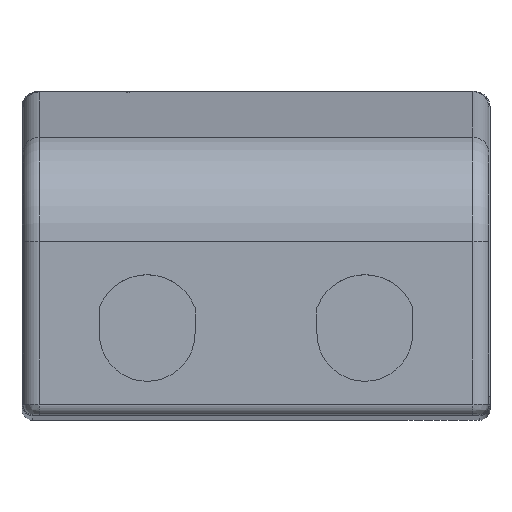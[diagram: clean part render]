
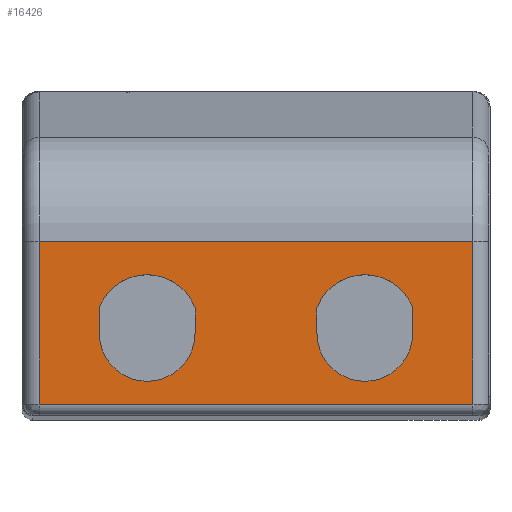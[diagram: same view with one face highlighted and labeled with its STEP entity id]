
A CAD part, top view. The second image highlights one B-rep face of the part: STEP entity #16426.
In plain terms, the highlighted planar face has unit normal (0, 0, 1).
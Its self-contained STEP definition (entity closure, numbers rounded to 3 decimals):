
#14873=CARTESIAN_POINT('',(-10.,8.2,30.));
#14874=DIRECTION('',(0.,0.,1.));
#14875=DIRECTION('',(0.936,0.352,0.));
#14876=AXIS2_PLACEMENT_3D('',#14873,#14874,#14875);
#14878=DIRECTION('',(0.,-1.,0.));
#14879=VECTOR('',#14878,2.352);
#14880=CARTESIAN_POINT('',(-14.4,9.852,30.));
#14881=LINE('',#14880,#14879);
#14882=CARTESIAN_POINT('',(-10.,7.5,30.));
#14883=DIRECTION('',(0.,0.,1.));
#14884=DIRECTION('',(-1.,0.,0.));
#14885=AXIS2_PLACEMENT_3D('',#14882,#14883,#14884);
#14887=DIRECTION('',(0.,1.,0.));
#14888=VECTOR('',#14887,2.352);
#14889=CARTESIAN_POINT('',(-5.6,7.5,30.));
#14890=LINE('',#14889,#14888);
#14891=CARTESIAN_POINT('',(10.,8.2,30.));
#14892=DIRECTION('',(0.,0.,1.));
#14893=DIRECTION('',(0.936,0.352,0.));
#14894=AXIS2_PLACEMENT_3D('',#14891,#14892,#14893);
#14896=DIRECTION('',(0.,-1.,0.));
#14897=VECTOR('',#14896,2.352);
#14898=CARTESIAN_POINT('',(5.6,9.852,30.));
#14899=LINE('',#14898,#14897);
#14900=CARTESIAN_POINT('',(10.,7.5,30.));
#14901=DIRECTION('',(0.,0.,1.));
#14902=DIRECTION('',(-1.,0.,0.));
#14903=AXIS2_PLACEMENT_3D('',#14900,#14901,#14902);
#14905=DIRECTION('',(0.,1.,0.));
#14906=VECTOR('',#14905,2.352);
#14907=CARTESIAN_POINT('',(14.4,7.5,30.));
#14908=LINE('',#14907,#14906);
#14909=DIRECTION('',(1.,0.,0.));
#14910=VECTOR('',#14909,39.8);
#14911=CARTESIAN_POINT('',(-19.9,1.,30.));
#14912=LINE('',#14911,#14910);
#14913=DIRECTION('',(0.,1.,0.));
#14914=VECTOR('',#14913,14.957);
#14915=CARTESIAN_POINT('',(-19.9,1.,30.));
#14916=LINE('',#14915,#14914);
#14917=DIRECTION('',(1.,0.,0.));
#14918=VECTOR('',#14917,39.8);
#14919=CARTESIAN_POINT('',(-19.9,15.957,30.));
#14920=LINE('',#14919,#14918);
#14921=DIRECTION('',(0.,-1.,0.));
#14922=VECTOR('',#14921,14.957);
#14923=CARTESIAN_POINT('',(19.9,15.957,30.));
#14924=LINE('',#14923,#14922);
#15722=CARTESIAN_POINT('',(-5.6,9.852,30.));
#15723=CARTESIAN_POINT('',(-14.4,9.852,30.));
#15724=VERTEX_POINT('',#15722);
#15725=VERTEX_POINT('',#15723);
#15726=CARTESIAN_POINT('',(-14.4,7.5,30.));
#15727=VERTEX_POINT('',#15726);
#15728=CARTESIAN_POINT('',(-5.6,7.5,30.));
#15729=VERTEX_POINT('',#15728);
#15730=CARTESIAN_POINT('',(14.4,9.852,30.));
#15731=CARTESIAN_POINT('',(5.6,9.852,30.));
#15732=VERTEX_POINT('',#15730);
#15733=VERTEX_POINT('',#15731);
#15734=CARTESIAN_POINT('',(5.6,7.5,30.));
#15735=VERTEX_POINT('',#15734);
#15736=CARTESIAN_POINT('',(14.4,7.5,30.));
#15737=VERTEX_POINT('',#15736);
#15789=CARTESIAN_POINT('',(19.9,15.957,30.));
#15791=VERTEX_POINT('',#15789);
#15808=CARTESIAN_POINT('',(-19.9,15.957,30.));
#15810=VERTEX_POINT('',#15808);
#15868=CARTESIAN_POINT('',(19.9,1.,30.));
#15869=VERTEX_POINT('',#15868);
#15872=CARTESIAN_POINT('',(-19.9,1.,30.));
#15873=VERTEX_POINT('',#15872);
#16393=CARTESIAN_POINT('',(-21.4,15.957,30.));
#16394=DIRECTION('',(0.,0.,1.));
#16395=DIRECTION('',(0.,-1.,0.));
#16396=AXIS2_PLACEMENT_3D('',#16393,#16394,#16395);
#16397=PLANE('',#16396);
#16398=ORIENTED_EDGE('',*,*,#16384,.F.);
#16399=ORIENTED_EDGE('',*,*,#16014,.T.);
#16401=ORIENTED_EDGE('',*,*,#16400,.T.);
#16403=ORIENTED_EDGE('',*,*,#16402,.T.);
#16404=EDGE_LOOP('',(#16398,#16399,#16401,#16403));
#16405=FACE_OUTER_BOUND('',#16404,.F.);
#16407=ORIENTED_EDGE('',*,*,#16406,.T.);
#16409=ORIENTED_EDGE('',*,*,#16408,.T.);
#16411=ORIENTED_EDGE('',*,*,#16410,.T.);
#16413=ORIENTED_EDGE('',*,*,#16412,.T.);
#16414=EDGE_LOOP('',(#16407,#16409,#16411,#16413));
#16415=FACE_BOUND('',#16414,.F.);
#16417=ORIENTED_EDGE('',*,*,#16416,.T.);
#16419=ORIENTED_EDGE('',*,*,#16418,.T.);
#16421=ORIENTED_EDGE('',*,*,#16420,.T.);
#16423=ORIENTED_EDGE('',*,*,#16422,.T.);
#16424=EDGE_LOOP('',(#16417,#16419,#16421,#16423));
#16425=FACE_BOUND('',#16424,.F.);
#14877=CIRCLE('',#14876,4.7);
#14886=CIRCLE('',#14885,4.4);
#14895=CIRCLE('',#14894,4.7);
#14904=CIRCLE('',#14903,4.4);
#16014=EDGE_CURVE('',#15873,#15810,#14916,.T.);
#16384=EDGE_CURVE('',#15873,#15869,#14912,.T.);
#16400=EDGE_CURVE('',#15810,#15791,#14920,.T.);
#16402=EDGE_CURVE('',#15791,#15869,#14924,.T.);
#16406=EDGE_CURVE('',#15732,#15733,#14895,.T.);
#16408=EDGE_CURVE('',#15733,#15735,#14899,.T.);
#16410=EDGE_CURVE('',#15735,#15737,#14904,.T.);
#16412=EDGE_CURVE('',#15737,#15732,#14908,.T.);
#16416=EDGE_CURVE('',#15724,#15725,#14877,.T.);
#16418=EDGE_CURVE('',#15725,#15727,#14881,.T.);
#16420=EDGE_CURVE('',#15727,#15729,#14886,.T.);
#16422=EDGE_CURVE('',#15729,#15724,#14890,.T.);
#16426=ADVANCED_FACE('',(#16405,#16415,#16425),#16397,.T.);
